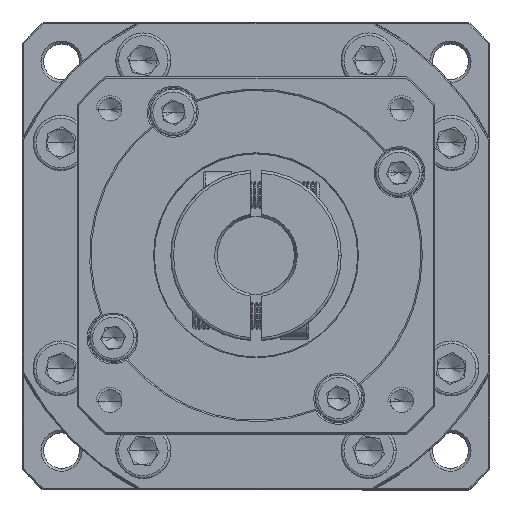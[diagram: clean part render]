
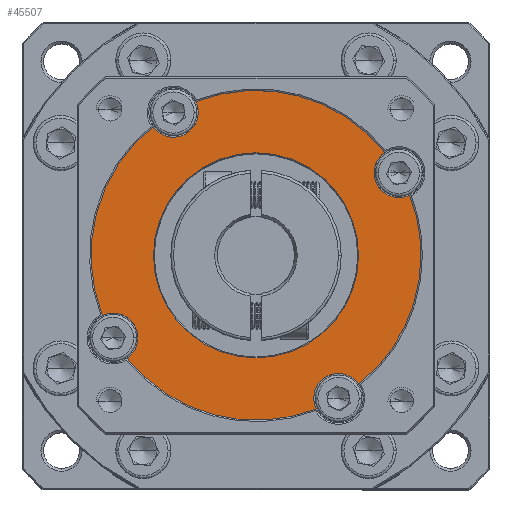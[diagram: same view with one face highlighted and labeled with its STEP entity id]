
A CAD part, top view. The second image highlights one B-rep face of the part: STEP entity #45507.
In plain terms, the highlighted planar face has unit normal (0, 0, 1).
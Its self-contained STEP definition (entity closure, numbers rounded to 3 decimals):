
#437 = VERTEX_POINT ( 'NONE', #112573 ) ;
#1449 = AXIS2_PLACEMENT_3D ( 'NONE', #102612, #47681, #111789 ) ;
#2449 = CIRCLE ( 'NONE', #68251, 18.644 ) ;
#4236 = ORIENTED_EDGE ( 'NONE', *, *, #80969, .T. ) ;
#4351 = ORIENTED_EDGE ( 'NONE', *, *, #75519, .F. ) ;
#4578 = CARTESIAN_POINT ( 'NONE',  ( -69.004, 31.147, 13.42 ) ) ;
#10323 = AXIS2_PLACEMENT_3D ( 'NONE', #66425, #11343, #75617 ) ;
#11343 = DIRECTION ( 'NONE',  ( 0., 0., 1. ) ) ;
#12812 = CIRCLE ( 'NONE', #10323, 4.5 ) ;
#12923 = CARTESIAN_POINT ( 'NONE',  ( -84.004, 57.128, 13.42 ) ) ;
#13838 = DIRECTION ( 'NONE',  ( 1., 0., 0. ) ) ;
#15742 = VERTEX_POINT ( 'NONE', #95701 ) ;
#16981 = CARTESIAN_POINT ( 'NONE',  ( -69.004, 31.147, 13.42 ) ) ;
#18058 = VERTEX_POINT ( 'NONE', #92025 ) ;
#19130 = ORIENTED_EDGE ( 'NONE', *, *, #39430, .F. ) ;
#19217 = EDGE_CURVE ( 'NONE', #56207, #116667, #48991, .T. ) ;
#19896 = CARTESIAN_POINT ( 'NONE',  ( -79.504, 57.128, 13.42 ) ) ;
#20513 = CARTESIAN_POINT ( 'NONE',  ( -90.485, 16.147, 13.42 ) ) ;
#22190 = DIRECTION ( 'NONE',  ( 1., 0., 0. ) ) ;
#23179 = EDGE_CURVE ( 'NONE', #33436, #437, #99632, .T. ) ;
#24986 = DIRECTION ( 'NONE',  ( 0., 0., 1. ) ) ;
#24998 = ORIENTED_EDGE ( 'NONE', *, *, #78373, .F. ) ;
#25381 = CARTESIAN_POINT ( 'NONE',  ( -84.004, 57.128, 13.42 ) ) ;
#25894 = CARTESIAN_POINT ( 'NONE',  ( -69.004, 31.147, 13.42 ) ) ;
#25915 = VERTEX_POINT ( 'NONE', #107425 ) ;
#26246 = DIRECTION ( 'NONE',  ( 1., 0., 0. ) ) ;
#26479 = AXIS2_PLACEMENT_3D ( 'NONE', #25381, #89556, #34636 ) ;
#26880 = CARTESIAN_POINT ( 'NONE',  ( -69.004, 31.147, 13.42 ) ) ;
#27328 = VERTEX_POINT ( 'NONE', #110639 ) ;
#27566 = AXIS2_PLACEMENT_3D ( 'NONE', #26880, #91059, #36103 ) ;
#27616 = DIRECTION ( 'NONE',  ( 0., 0., 1. ) ) ;
#27760 = EDGE_LOOP ( 'NONE', ( #39930, #83014 ) ) ;
#29372 = DIRECTION ( 'NONE',  ( 0., 0., 1. ) ) ;
#32306 = CARTESIAN_POINT ( 'NONE',  ( -92.449, 12.43, 13.42 ) ) ;
#32336 = AXIS2_PLACEMENT_3D ( 'NONE', #107845, #52967, #117015 ) ;
#32871 = VERTEX_POINT ( 'NONE', #66610 ) ;
#33436 = VERTEX_POINT ( 'NONE', #106789 ) ;
#34573 = AXIS2_PLACEMENT_3D ( 'NONE', #79927, #24986, #89150 ) ;
#34636 = DIRECTION ( 'NONE',  ( 1., 0., 0. ) ) ;
#35151 = DIRECTION ( 'NONE',  ( 1., 0., 0. ) ) ;
#35522 = DIRECTION ( 'NONE',  ( 0., 0., 1. ) ) ;
#36103 = DIRECTION ( 'NONE',  ( 1., 0., 0. ) ) ;
#37505 = CIRCLE ( 'NONE', #57178, 4.5 ) ;
#37608 = DIRECTION ( 'NONE',  ( 0., 0., 1. ) ) ;
#37708 = CARTESIAN_POINT ( 'NONE',  ( -58.504, 5.166, 13.42 ) ) ;
#37973 = FACE_BOUND ( 'NONE', #27760, .T. ) ;
#39430 = EDGE_CURVE ( 'NONE', #116667, #437, #108711, .T. ) ;
#39930 = ORIENTED_EDGE ( 'NONE', *, *, #104372, .T. ) ;
#41927 = EDGE_LOOP ( 'NONE', ( #98969, #4236, #4351, #96424, #53503, #72187, #118160, #92317, #59445, #24998, #80755, #43533, #19130 ) ) ;
#42865 = CIRCLE ( 'NONE', #62753, 4.5 ) ;
#43533 = ORIENTED_EDGE ( 'NONE', *, *, #23179, .T. ) ;
#45507 = ADVANCED_FACE ( 'NONE', ( #37973, #108247 ), #100634, .T. ) ;
#46222 = EDGE_CURVE ( 'NONE', #55608, #15742, #100820, .T. ) ;
#47681 = DIRECTION ( 'NONE',  ( 0., 0., 1. ) ) ;
#47814 = CARTESIAN_POINT ( 'NONE',  ( -69.004, 31.147, 13.42 ) ) ;
#48488 = AXIS2_PLACEMENT_3D ( 'NONE', #82546, #27616, #91767 ) ;
#48770 = CIRCLE ( 'NONE', #1449, 30. ) ;
#48991 = CIRCLE ( 'NONE', #54132, 4.5 ) ;
#49594 = CARTESIAN_POINT ( 'NONE',  ( -58.059, 3.215, 13.42 ) ) ;
#49991 = CARTESIAN_POINT ( 'NONE',  ( -41.072, 42.092, 13.42 ) ) ;
#52967 = DIRECTION ( 'NONE',  ( 0., 0., 1. ) ) ;
#53503 = ORIENTED_EDGE ( 'NONE', *, *, #46222, .T. ) ;
#54004 = DIRECTION ( 'NONE',  ( 0., 0., 1. ) ) ;
#54132 = AXIS2_PLACEMENT_3D ( 'NONE', #92528, #37608, #101783 ) ;
#55210 = EDGE_CURVE ( 'NONE', #81868, #90599, #80145, .T. ) ;
#55608 = VERTEX_POINT ( 'NONE', #114620 ) ;
#56058 = EDGE_CURVE ( 'NONE', #55608, #71298, #12812, .T. ) ;
#56207 = VERTEX_POINT ( 'NONE', #32306 ) ;
#57011 = DIRECTION ( 'NONE',  ( 1., 0., 0. ) ) ;
#57178 = AXIS2_PLACEMENT_3D ( 'NONE', #12923, #77163, #22190 ) ;
#59445 = ORIENTED_EDGE ( 'NONE', *, *, #74711, .T. ) ;
#61142 = EDGE_CURVE ( 'NONE', #33436, #88815, #37505, .T. ) ;
#62753 = AXIS2_PLACEMENT_3D ( 'NONE', #84272, #29372, #93526 ) ;
#66029 = VERTEX_POINT ( 'NONE', #49594 ) ;
#66425 = CARTESIAN_POINT ( 'NONE',  ( -54.004, 5.166, 13.42 ) ) ;
#66610 = CARTESIAN_POINT ( 'NONE',  ( -79.949, 59.079, 13.42 ) ) ;
#68251 = AXIS2_PLACEMENT_3D ( 'NONE', #4578, #68855, #13838 ) ;
#68855 = DIRECTION ( 'NONE',  ( 0., 0., -1. ) ) ;
#71298 = VERTEX_POINT ( 'NONE', #37708 ) ;
#72187 = ORIENTED_EDGE ( 'NONE', *, *, #101065, .T. ) ;
#74656 = CIRCLE ( 'NONE', #27566, 30. ) ;
#74711 = EDGE_CURVE ( 'NONE', #18058, #32871, #74656, .T. ) ;
#75006 = AXIS2_PLACEMENT_3D ( 'NONE', #47814, #111925, #57011 ) ;
#75519 = EDGE_CURVE ( 'NONE', #71298, #66029, #101505, .T. ) ;
#75617 = DIRECTION ( 'NONE',  ( 1., 0., 0. ) ) ;
#77163 = DIRECTION ( 'NONE',  ( 0., 0., 1. ) ) ;
#77212 = AXIS2_PLACEMENT_3D ( 'NONE', #108884, #54004, #118053 ) ;
#78373 = EDGE_CURVE ( 'NONE', #88815, #32871, #111254, .T. ) ;
#79927 = CARTESIAN_POINT ( 'NONE',  ( -94.985, 16.147, 13.42 ) ) ;
#80145 = CIRCLE ( 'NONE', #77212, 4.5 ) ;
#80755 = ORIENTED_EDGE ( 'NONE', *, *, #61142, .F. ) ;
#80969 = EDGE_CURVE ( 'NONE', #56207, #66029, #113755, .T. ) ;
#81218 = DIRECTION ( 'NONE',  ( 0., 0., 1. ) ) ;
#81493 = AXIS2_PLACEMENT_3D ( 'NONE', #25894, #90090, #35151 ) ;
#81868 = VERTEX_POINT ( 'NONE', #83690 ) ;
#82546 = CARTESIAN_POINT ( 'NONE',  ( -69.004, 31.147, 13.42 ) ) ;
#83014 = ORIENTED_EDGE ( 'NONE', *, *, #109599, .T. ) ;
#83690 = CARTESIAN_POINT ( 'NONE',  ( -47.523, 46.147, 13.42 ) ) ;
#84272 = CARTESIAN_POINT ( 'NONE',  ( -43.023, 46.147, 13.42 ) ) ;
#88815 = VERTEX_POINT ( 'NONE', #19896 ) ;
#89150 = DIRECTION ( 'NONE',  ( 1., 0., 0. ) ) ;
#89556 = DIRECTION ( 'NONE',  ( 0., 0., 1. ) ) ;
#90090 = DIRECTION ( 'NONE',  ( 0., 0., 1. ) ) ;
#90478 = CARTESIAN_POINT ( 'NONE',  ( -69.004, 31.147, 13.42 ) ) ;
#90599 = VERTEX_POINT ( 'NONE', #49991 ) ;
#91059 = DIRECTION ( 'NONE',  ( 0., 0., 1. ) ) ;
#91593 = CIRCLE ( 'NONE', #75006, 18.644 ) ;
#91767 = DIRECTION ( 'NONE',  ( 1., 0., 0. ) ) ;
#92025 = CARTESIAN_POINT ( 'NONE',  ( -45.559, 49.865, 13.42 ) ) ;
#92317 = ORIENTED_EDGE ( 'NONE', *, *, #104363, .F. ) ;
#92528 = CARTESIAN_POINT ( 'NONE',  ( -94.985, 16.147, 13.42 ) ) ;
#93526 = DIRECTION ( 'NONE',  ( 1., 0., 0. ) ) ;
#95701 = CARTESIAN_POINT ( 'NONE',  ( -39.004, 31.147, 13.42 ) ) ;
#96424 = ORIENTED_EDGE ( 'NONE', *, *, #56058, .F. ) ;
#96974 = AXIS2_PLACEMENT_3D ( 'NONE', #16981, #81218, #26246 ) ;
#98969 = ORIENTED_EDGE ( 'NONE', *, *, #19217, .F. ) ;
#99632 = CIRCLE ( 'NONE', #81493, 30. ) ;
#99719 = DIRECTION ( 'NONE',  ( 1., 0., 0. ) ) ;
#100634 = PLANE ( 'NONE',  #48488 ) ;
#100820 = CIRCLE ( 'NONE', #96974, 30. ) ;
#101065 = EDGE_CURVE ( 'NONE', #15742, #90599, #48770, .T. ) ;
#101505 = CIRCLE ( 'NONE', #32336, 4.5 ) ;
#101783 = DIRECTION ( 'NONE',  ( 1., 0., 0. ) ) ;
#102612 = CARTESIAN_POINT ( 'NONE',  ( -69.004, 31.147, 13.42 ) ) ;
#104363 = EDGE_CURVE ( 'NONE', #18058, #81868, #42865, .T. ) ;
#104372 = EDGE_CURVE ( 'NONE', #27328, #25915, #91593, .T. ) ;
#105181 = AXIS2_PLACEMENT_3D ( 'NONE', #90478, #35522, #99719 ) ;
#106789 = CARTESIAN_POINT ( 'NONE',  ( -87.721, 54.592, 13.42 ) ) ;
#107425 = CARTESIAN_POINT ( 'NONE',  ( -87.648, 31.147, 13.42 ) ) ;
#107845 = CARTESIAN_POINT ( 'NONE',  ( -54.004, 5.166, 13.42 ) ) ;
#108247 = FACE_OUTER_BOUND ( 'NONE', #41927, .T. ) ;
#108711 = CIRCLE ( 'NONE', #34573, 4.5 ) ;
#108884 = CARTESIAN_POINT ( 'NONE',  ( -43.023, 46.147, 13.42 ) ) ;
#109599 = EDGE_CURVE ( 'NONE', #25915, #27328, #2449, .T. ) ;
#110639 = CARTESIAN_POINT ( 'NONE',  ( -50.36, 31.147, 13.42 ) ) ;
#111254 = CIRCLE ( 'NONE', #26479, 4.5 ) ;
#111789 = DIRECTION ( 'NONE',  ( 1., 0., 0. ) ) ;
#111925 = DIRECTION ( 'NONE',  ( 0., 0., -1. ) ) ;
#112573 = CARTESIAN_POINT ( 'NONE',  ( -96.936, 20.202, 13.42 ) ) ;
#113755 = CIRCLE ( 'NONE', #105181, 30. ) ;
#114620 = CARTESIAN_POINT ( 'NONE',  ( -50.287, 7.702, 13.42 ) ) ;
#116667 = VERTEX_POINT ( 'NONE', #20513 ) ;
#117015 = DIRECTION ( 'NONE',  ( 1., 0., 0. ) ) ;
#118053 = DIRECTION ( 'NONE',  ( 1., 0., 0. ) ) ;
#118160 = ORIENTED_EDGE ( 'NONE', *, *, #55210, .F. ) ;
